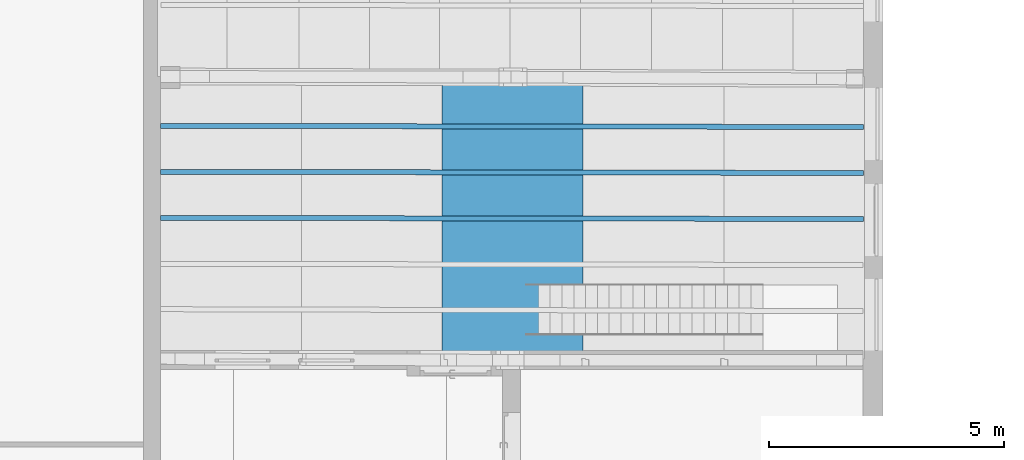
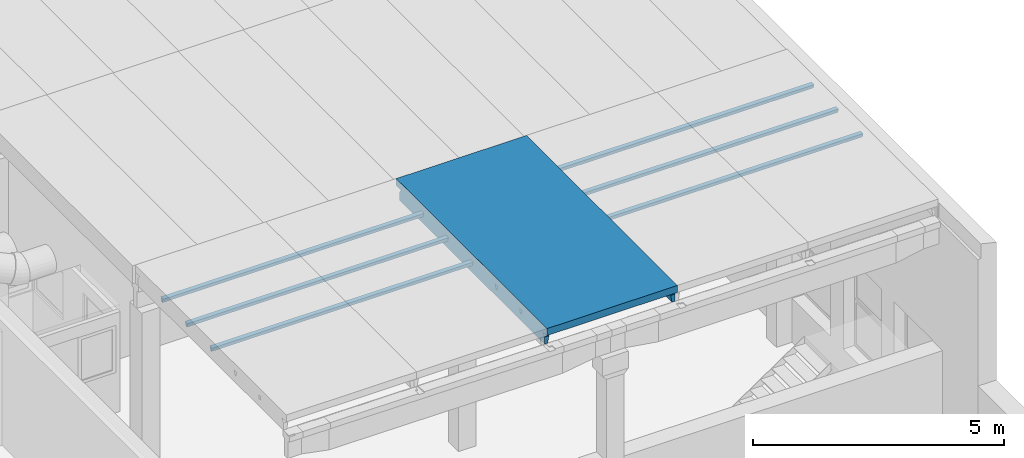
# One storey, part 28 of 301: 4 beams.
"""IFC2X3 building model written with IfcOpenShell, lengths in millimetres."""

from ifc_helpers import new_model, entity, si_unit, converted_unit, derived_unit, money_unit, direction, frame, origin_with_axes, place, context, subcontext, project, spatial, faceted_brep, material, type_object, element, save


model = new_model("IFC2X3")

# Units and contexts
model_context = context("Model", 3, precision=0.01, world=origin_with_axes(), true_north=direction((0.0, 1.0)))
body_context = subcontext(model_context, "Body", "Model", "MODEL_VIEW")
ifc_project = project(units=[si_unit("LENGTHUNIT", "METRE", prefix="MILLI"), si_unit("AREAUNIT", "SQUARE_METRE"), si_unit("VOLUMEUNIT", "CUBIC_METRE"), converted_unit("PLANEANGLEUNIT", "DEGREE", entity("IfcPlaneAngleMeasure", 0.0174532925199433), si_unit("PLANEANGLEUNIT", "RADIAN"), dimensions=[0, 0, 0, 0, 0, 0, 0]), money_unit("EUR"), converted_unit("TIMEUNIT", "Year", entity("IfcTimeMeasure", 31557600.0), si_unit("TIMEUNIT", "SECOND"), dimensions=[0, 0, 1, 0, 0, 0, 0]), si_unit("MASSUNIT", "GRAM", prefix="KILO"), si_unit("THERMODYNAMICTEMPERATUREUNIT", "DEGREE_CELSIUS"), si_unit("LUMINOUSINTENSITYUNIT", "LUMEN"), si_unit("ENERGYUNIT", "JOULE", prefix="MEGA"), derived_unit("THERMALCONDUCTANCEUNIT", [(si_unit("POWERUNIT", "WATT"), 1), (si_unit("LENGTHUNIT", "METRE"), -1), (si_unit("THERMODYNAMICTEMPERATUREUNIT", "KELVIN"), -1)]), derived_unit("SPECIFICHEATCAPACITYUNIT", [(si_unit("ENERGYUNIT", "JOULE"), 1), (si_unit("MASSUNIT", "GRAM", prefix="KILO"), -1), (si_unit("THERMODYNAMICTEMPERATUREUNIT", "KELVIN"), -1)]), derived_unit("MASSDENSITYUNIT", [(si_unit("MASSUNIT", "GRAM", prefix="KILO"), 1), (si_unit("VOLUMEUNIT", "CUBIC_METRE"), -1)])], contexts=[model_context])

# Site, building, storey
site_placement = place(None, frame((0.0, 0.0, 8650.0), z_axis=(0.0, 0.0, 1.0), x_axis=(1.0, 0.0, 0.0)))
site = spatial("IfcSite", under=ifc_project, at=site_placement, Name="43301:001:0844", CompositionType="ELEMENT")
building_placement = place(site_placement, origin_with_axes())
building = spatial("IfcBuilding", under=site, at=building_placement, Name="Kuressaare Ametikooli tuulikute mehaanikute õppekorpus", CompositionType="ELEMENT")
storey_placement = place(building_placement, origin_with_axes())
storey = spatial("IfcBuildingStorey", under=building, at=storey_placement, Name="1.korrus", CompositionType="ELEMENT", Elevation=0.0)

# Beams
ifc_material = material(Name="GENEERILINE - KONSTRUKTRIOON")
beam_type_1 = type_object("IfcBeamType", Name="Precast Double Tee 4 3000 x 440", PredefinedType="NOTDEFINED")
beam_1_placement = place(storey_placement, frame((95758.75644683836, 44085.15228588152, 7100.0), z_axis=(0.0, 0.0, 1.0), x_axis=(-1.0, 0.0, 0.0)))
element("IfcBeam", 1, at=beam_1_placement, inside=storey, type_object=beam_type_1, material=ifc_material, context=body_context, shape_type="Brep", body=[
    faceted_brep([(1500.0, 185.975979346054, -180.532857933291), (1500.0, 154.3033205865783, -221.5483087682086), (1500.0, 128.7111838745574, -266.6089685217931), (1500.0, 128.7106587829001, -440.0001340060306), (1500.0, 5916.081715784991, -440.0001340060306), (1500.0, 5916.081193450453, -267.5188171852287), (1500.0, 5890.489142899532, -222.4581574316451), (1500.0, 5858.816590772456, -181.4427065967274), (1500.0, 5847.854016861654, -169.9098486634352), (1500.0, 6017.898995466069, -169.9098486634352), (1500.0, 6017.898995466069, 0.0), (1500.0, 0.0, 0.0), (1500.0, 0.0, -168.9999999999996), (1500.0, 196.9385901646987, -168.9999999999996), (1500.0, 1114.395131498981, -169.8331663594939), (1500.0, 1106.196273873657, -175.4075010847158), (1500.0, 1101.62165437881, -184.2033640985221), (1500.0, 1080.881668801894, -271.7806445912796), (1500.0, 1040.88161509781, -271.7806445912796), (1500.0, 1020.140667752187, -184.2031688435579), (1500.0, 1015.566027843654, -175.4074260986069), (1500.0, 1007.367236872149, -169.8331663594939), (1500.0, 2085.613522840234, -175.4075010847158), (1500.0, 2081.03890334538, -184.2033640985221), (1500.0, 2060.29891776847, -271.7806445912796), (1500.0, 2020.298864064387, -271.7806445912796), (1500.0, 1999.557916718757, -184.2031688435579), (1500.0, 1994.983276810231, -175.4074260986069), (1500.0, 1986.784485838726, -169.8331663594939), (1500.0, 2093.812380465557, -169.8331663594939), (1500.0, 3061.827106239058, -184.2033640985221), (1500.0, 3041.087120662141, -271.7806445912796), (1500.0, 3001.087066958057, -271.7806445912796), (1500.0, 2980.346119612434, -184.2031688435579), (1500.0, 2975.771479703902, -175.4074260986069), (1500.0, 2967.572688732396, -169.8331663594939), (1500.0, 3074.600583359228, -169.8331663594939), (1500.0, 3066.401725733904, -175.4075010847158), (1500.0, 4020.839299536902, -271.7806445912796), (1500.0, 3980.839245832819, -271.7806445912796), (1500.0, 3960.098298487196, -184.2031688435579), (1500.0, 3955.523658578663, -175.4074260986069), (1500.0, 3947.324867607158, -169.8331663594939), (1500.0, 4054.352762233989, -169.8331663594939), (1500.0, 4046.153904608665, -175.4075010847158), (1500.0, 4041.579285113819, -184.2033640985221), (1500.0, 4952.438495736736, -271.7806445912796), (1500.0, 4931.697502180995, -184.2031688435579), (1500.0, 4927.122852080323, -175.4074260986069), (1500.0, 4918.924042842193, -169.8331663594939), (1500.0, 5025.952175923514, -169.8331663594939), (1500.0, 5017.753300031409, -175.4075010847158), (1500.0, 5013.17867034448, -184.2033640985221), (1500.0, 4992.438638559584, -271.7806445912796), (1365.910046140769, 186.4305255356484, -180.532857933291), (1371.752641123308, 183.6774127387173, -184.0724353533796), (1384.30381979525, 171.2231610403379, -200.1453415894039), (1390.327470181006, 156.1577432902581, -219.628309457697), (1390.629556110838, 154.6740710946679, -221.5483087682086), (1397.719241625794, 129.0579013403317, -266.6089685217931), (1424.999996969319, 128.9648983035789, -440.0001340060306), (1424.999996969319, 5916.245306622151, -440.0001340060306), (1397.862394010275, 5916.303977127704, -267.5188171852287), (1390.772708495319, 5890.727390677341, -222.4581574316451), (1384.303819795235, 5873.511315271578, -200.1453415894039), (1371.752641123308, 5861.127028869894, -184.0724353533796), (1367.411885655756, 5859.105793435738, -181.4427065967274), (1390.327470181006, 5888.543124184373, -219.628309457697), (1354.310838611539, 5851.589925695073, -173.505793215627), (1334.723493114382, 5848.214519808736, -169.9098486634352), (1334.723493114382, 6017.898995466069, -169.9098486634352), (1334.253143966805, 6017.898995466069, -169.8234995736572), (1127.640522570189, 6017.898995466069, -169.9098486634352), (-1500.0, 6017.898995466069, -169.9098486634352), (-1500.0, 6017.898995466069, 0.0), (-1500.0, 0.0, 0.0), (-1500.0, 0.0, -168.9999999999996), (-1500.0, 207.1081705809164, -168.9999999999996), (-1370.461247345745, 195.7064415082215, -180.532857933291), (-1370.286968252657, 195.8910073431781, -180.338069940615), (-1354.45241394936, 203.3474868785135, -172.4372542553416), (-1336.819669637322, 204.7111127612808, -170.9398142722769), (1334.253143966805, 196.7176675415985, -169.8234995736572), (1354.310838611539, 193.1494537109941, -173.505793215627), (-1500.0, 196.1455597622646, -180.532857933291), (1334.253120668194, 1114.666734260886, -169.8331663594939), (1354.310838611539, 1109.232083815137, -173.505793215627), (1357.449888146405, 1106.429865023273, -175.4075010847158), (1371.752641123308, 1101.89990260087, -184.0724353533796), (1371.854882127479, 1101.831640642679, -184.2033640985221), (1384.30381979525, 1098.035873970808, -200.1453415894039), (1390.327470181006, 1093.41206148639, -219.628309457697), (1398.532934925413, 1081.047938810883, -271.7806445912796), (1398.532934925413, 1041.047885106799, -271.7806445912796), (1371.854729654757, 1020.350654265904, -184.2031688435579), (1390.327470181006, 1028.710109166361, -219.628309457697), (1384.30381979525, 1024.105834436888, -200.1453415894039), (1371.752641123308, 1020.282827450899, -184.0724353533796), (1357.44976437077, 1015.799619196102, -175.4074260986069), (1354.310838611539, 1013.00778327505, -173.505793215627), (1334.253143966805, 1007.63883959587, -169.8331663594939), (-1500.0, 1119.311111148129, -169.8331663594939), (-1500.0, 1012.283216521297, -169.8331663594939), (1371.752641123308, 2081.31715156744, -184.0724353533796), (1371.854882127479, 2081.248889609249, -184.2033640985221), (1357.449888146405, 2085.84711398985, -175.4075010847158), (1390.327470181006, 2072.829310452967, -219.628309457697), (1398.532934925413, 2060.465187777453, -271.7806445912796), (1384.30381979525, 2077.453122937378, -200.1453415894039), (1398.532934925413, 2020.465134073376, -271.7806445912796), (1390.327470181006, 2008.127358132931, -219.628309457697), (1384.30381979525, 2003.523083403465, -200.1453415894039), (1371.854729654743, 1999.767903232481, -184.2031688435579), (1357.44976437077, 1995.216868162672, -175.4074260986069), (1371.752641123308, 1999.700076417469, -184.0724353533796), (1334.253124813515, 1987.056088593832, -169.8331663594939), (1354.310838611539, 1992.425032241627, -173.505793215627), (1334.253120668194, 2094.083983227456, -169.8331663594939), (-1500.0, 1991.700465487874, -169.8331663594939), (-1500.0, 2098.728360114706, -169.8331663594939), (1354.310838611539, 2088.649332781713, -173.505793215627), (1398.532934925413, 3041.253390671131, -271.7806445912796), (1371.854882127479, 3062.037092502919, -184.2033640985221), (1384.30381979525, 3058.241325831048, -200.1453415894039), (1390.327470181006, 3053.617513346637, -219.628309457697), (1398.532934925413, 3001.253336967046, -271.7806445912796), (1390.327470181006, 2988.915561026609, -219.628309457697), (1384.30381979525, 2984.311286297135, -200.1453415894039), (1371.854729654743, 2980.556106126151, -184.2031688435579), (1371.752641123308, 2980.488279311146, -184.0724353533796), (1357.449764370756, 2976.005071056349, -175.4074260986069), (1354.310838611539, 2973.213235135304, -173.505793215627), (1334.253125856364, 2967.844291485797, -169.8331663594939), (-1500.0, 2972.488668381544, -169.8331663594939), (-1500.0, 3079.516563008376, -169.8331663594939), (1334.253120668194, 3074.872186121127, -169.8331663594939), (1357.449888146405, 3066.63531688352, -175.4075010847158), (1354.310838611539, 3069.437535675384, -173.505793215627), (1371.752641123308, 3062.105354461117, -184.0724353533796), (1398.532934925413, 4021.005569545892, -271.7806445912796), (1398.532934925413, 3981.005515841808, -271.7806445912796), (1390.327470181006, 3968.66773990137, -219.628309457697), (1384.30381979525, 3964.063465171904, -200.1453415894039), (1371.854729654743, 3960.308285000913, -184.2031688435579), (1371.752641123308, 3960.240458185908, -184.0724353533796), (1357.44976437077, 3955.757249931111, -175.4074260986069), (1354.310838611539, 3952.965414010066, -173.505793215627), (1334.253127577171, 3947.596470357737, -169.8331663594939), (-1500.0, 3952.240847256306, -169.8331663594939), (-1500.0, 4059.268741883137, -169.8331663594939), (1334.253120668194, 4054.624364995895, -169.8331663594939), (1354.310838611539, 4049.189714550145, -173.505793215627), (1357.449888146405, 4046.387495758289, -175.4075010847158), (1371.752641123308, 4041.857533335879, -184.0724353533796), (1371.854882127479, 4041.789271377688, -184.2033640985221), (1384.30381979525, 4037.993504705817, -200.1453415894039), (1390.327470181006, 4033.369692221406, -219.628309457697), (1390.327470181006, 4940.38032354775, -219.628309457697), (1384.30381979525, 4935.78226478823, -200.1453415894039), (1371.854729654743, 4932.039944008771, -184.2031688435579), (1398.532934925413, 4952.709645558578, -271.7806445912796), (1371.752641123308, 4931.972222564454, -184.0724353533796), (1357.44976437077, 4927.50378820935, -175.4074260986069), (1354.310838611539, 4924.715190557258, -173.505793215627), (1334.253130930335, 4919.366967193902, -169.8331663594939), (-1500.0, 4926.940924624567, -169.8331663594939), (-1500.0, 5033.969057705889, -169.8331663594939), (1334.253113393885, 5026.395100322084, -169.8331663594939), (1354.310838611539, 5020.939705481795, -173.505793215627), (1357.449888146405, 5018.134235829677, -175.4075010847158), (1371.752641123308, 5013.58947955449, -184.0724353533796), (1371.854882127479, 5013.521111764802, -184.2033640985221), (1384.303819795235, 5009.712469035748, -200.1453415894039), (1390.327470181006, 5005.082420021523, -219.628309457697), (1398.532934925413, 4992.709788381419, -271.7806445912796), (-1336.819669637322, 5031.905305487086, -170.9398142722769), (-1336.819669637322, 5855.020754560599, -170.9398142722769), (1127.640522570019, 5848.666211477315, -169.9098486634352), (-1500.0, 5854.397650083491, -169.9098486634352), (-1500.0, 5865.360223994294, -181.4427065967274), (-1500.0, 5897.032776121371, -222.4581574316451), (-1500.0, 5922.624826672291, -267.5188171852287), (-1500.0, 5922.625349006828, -440.0001340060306), (-1500.0, 138.8802391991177, -440.0001340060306), (-1500.0, 138.8807642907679, -266.6089685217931), (-1500.0, 164.4729010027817, -221.5483087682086), (-1500.0, 1020.482007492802, -175.4074260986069), (-1500.0, 1025.056647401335, -184.2031688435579), (-1500.0, 1045.797594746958, -271.7806445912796), (-1500.0, 1085.797648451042, -271.7806445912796), (-1500.0, 1106.537634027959, -184.2033640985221), (-1500.0, 1111.112253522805, -175.4075010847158), (-1500.0, 2004.473896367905, -184.2031688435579), (-1500.0, 2025.214843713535, -271.7806445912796), (-1500.0, 2065.214897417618, -271.7806445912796), (-1500.0, 2085.954882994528, -184.2033640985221), (-1500.0, 2090.529502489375, -175.4075010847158), (-1500.0, 1999.899256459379, -175.4074260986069), (-1500.0, 3006.003046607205, -271.7806445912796), (-1500.0, 3046.003100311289, -271.7806445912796), (-1500.0, 3066.743085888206, -184.2033640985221), (-1500.0, 3071.317705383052, -175.4075010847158), (-1500.0, 2980.687459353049, -175.4074260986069), (-1500.0, 2985.262099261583, -184.2031688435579), (-1500.0, 4025.75527918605, -271.7806445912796), (-1500.0, 4046.495264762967, -184.2033640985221), (-1500.0, 4051.069884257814, -175.4075010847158), (-1500.0, 3960.439638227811, -175.4074260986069), (-1500.0, 3965.014278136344, -184.2031688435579), (-1500.0, 3985.755225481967, -271.7806445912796), (-1500.0, 5021.195552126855, -184.2033640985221), (-1500.0, 5025.77018181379, -175.4075010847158), (-1500.0, 4935.139733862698, -175.4074260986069), (-1500.0, 4939.71438396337, -184.2031688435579), (-1500.0, 4960.455377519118, -271.7806445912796), (-1500.0, 5000.455520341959, -271.7806445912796), (-1370.286968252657, 1022.833865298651, -180.338069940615), (-1382.086528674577, 185.7122354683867, -193.5261847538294), (-1382.086528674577, 1027.071394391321, -193.5261847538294), (-1373.745117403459, 1024.849758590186, -184.2031688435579), (-1360.405134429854, 1020.253258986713, -175.4074260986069), (-1354.45241394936, 1015.874885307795, -172.4372542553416), (-1336.819669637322, 1013.643510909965, -170.9398142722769), (-1388.184278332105, 172.9045594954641, -210.1386333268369), (-1390.259892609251, 164.1008973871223, -221.5483087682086), (-1360.405284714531, 1110.883505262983, -175.4075010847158), (-1354.45241394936, 1115.242456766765, -172.4372542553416), (-1336.819669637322, 1117.416031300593, -170.9398142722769), (-1336.819669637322, 1993.060759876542, -170.9398142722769), (-1354.45241394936, 1995.292134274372, -172.4372542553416), (-1360.40513442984, 1999.67050795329, -175.4074260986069), (-1360.405284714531, 2090.300754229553, -175.4075010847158), (-1354.45241394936, 2094.659705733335, -172.4372542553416), (-1336.819669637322, 2096.833280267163, -170.9398142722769), (-1336.819669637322, 2973.848962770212, -170.9398142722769), (-1354.45241394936, 2976.080337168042, -172.4372542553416), (-1360.40513442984, 2980.45871084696, -175.4074260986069), (-1354.45241394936, 3075.447908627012, -172.4372542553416), (-1336.819669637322, 3077.62148316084, -170.9398142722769), (-1360.405284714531, 3071.08895712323, -175.4075010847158), (-1354.45241394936, 3955.832516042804, -172.4372542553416), (-1360.40513442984, 3960.210889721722, -175.4074260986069), (-1336.819669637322, 3953.601141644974, -170.9398142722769), (-1336.819669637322, 4057.373662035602, -170.9398142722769), (-1360.405284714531, 4050.841135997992, -175.4075010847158), (-1354.45241394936, 4055.200087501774, -172.4372542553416), (-1360.40513442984, 4934.766695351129, -175.4074260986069), (-1336.819669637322, 4928.132553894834, -170.9398142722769), (-1354.45241394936, 4930.38215900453, -172.4372542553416), (-1360.405284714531, 5025.397143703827, -175.4075010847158), (-1354.45241394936, 5029.749951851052, -172.4372542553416), (-1354.45241394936, 5856.482608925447, -172.4372542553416), (-1371.275299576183, 5865.079448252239, -181.4427065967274), (-1370.286968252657, 5864.027278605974, -180.338069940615), (-1388.184278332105, 5887.27561946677, -210.1386333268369), (-1390.425409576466, 5896.793770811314, -222.4581574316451), (-1382.086528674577, 5874.434015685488, -193.5261847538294), (-1398.62271099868, 5922.403701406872, -267.5188171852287), (-1430.000000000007, 5922.472664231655, -440.0001340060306), (-1430.000000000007, 138.6429489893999, -440.0001340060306), (-1398.457194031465, 138.5365483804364, -266.6089685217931), (-1388.184278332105, 1031.01570774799, -210.1386333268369), (-1399.398009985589, 1045.63274230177, -271.7806445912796), (-1399.398009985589, 1085.632796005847, -271.7806445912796), (-1388.184278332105, 1100.212435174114, -210.1386333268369), (-1382.086528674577, 1104.136590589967, -193.5261847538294), (-1373.745292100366, 1106.330745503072, -184.2033640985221), (-1370.286968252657, 1108.335370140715, -180.338069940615), (-1373.745117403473, 2004.267007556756, -184.2031688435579), (-1382.086528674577, 2006.488643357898, -193.5261847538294), (-1388.184278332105, 2010.432956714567, -210.1386333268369), (-1399.398009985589, 2025.049991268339, -271.7806445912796), (-1399.398009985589, 2065.050044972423, -271.7806445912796), (-1388.184278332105, 2079.629684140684, -210.1386333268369), (-1382.086528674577, 2083.553839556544, -193.5261847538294), (-1373.745292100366, 2085.747994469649, -184.2033640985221), (-1370.286968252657, 2087.752619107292, -180.338069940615), (-1370.286968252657, 2002.251114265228, -180.338069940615), (-1399.398009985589, 3005.838194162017, -271.7806445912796), (-1399.398009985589, 3045.838247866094, -271.7806445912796), (-1388.184278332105, 3060.417887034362, -210.1386333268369), (-1382.086528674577, 3064.342042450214, -193.5261847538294), (-1373.745292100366, 3066.53619736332, -184.2033640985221), (-1370.286968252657, 3068.540822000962, -180.338069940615), (-1370.286968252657, 2983.039317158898, -180.338069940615), (-1373.745117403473, 2985.055210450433, -184.2031688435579), (-1382.086528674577, 2987.276846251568, -193.5261847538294), (-1388.184278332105, 2991.221159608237, -210.1386333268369), (-1382.086528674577, 4044.094221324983, -193.5261847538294), (-1373.745292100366, 4046.288376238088, -184.2033640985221), (-1399.398009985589, 4025.590426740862, -271.7806445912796), (-1388.184278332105, 4040.170065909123, -210.1386333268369), (-1370.286968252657, 4048.293000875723, -180.338069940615), (-1370.286968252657, 3962.79149603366, -180.338069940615), (-1373.745117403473, 3964.807389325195, -184.2031688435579), (-1388.184278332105, 3970.973338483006, -210.1386333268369), (-1399.398009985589, 3985.590373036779, -271.7806445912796), (-1382.086528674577, 3967.029025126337, -193.5261847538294), (-1373.745292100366, 5020.858162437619, -184.2033640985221), (-1370.286968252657, 5022.859216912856, -180.338069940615), (-1373.745117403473, 4939.376993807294, -184.2031688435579), (-1370.286968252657, 4937.357521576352, -180.338069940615), (-1399.398009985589, 4960.186539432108, -271.7806445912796), (-1382.086528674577, 4941.607256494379, -193.5261847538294), (-1388.184278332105, 4945.557881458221, -210.1386333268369), (-1399.398009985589, 5000.186682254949, -271.7806445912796), (-1388.184278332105, 5014.754763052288, -210.1386333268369), (-1382.086528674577, 5018.672624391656, -193.5261847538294)], [[[0, 1, 2, 3, 4, 5, 6, 7, 8, 9, 10, 11, 12, 13], [14, 15, 16, 17, 18, 19, 20, 21], [22, 23, 24, 25, 26, 27, 28, 29], [30, 31, 32, 33, 34, 35, 36, 37], [38, 39, 40, 41, 42, 43, 44, 45], [46, 47, 48, 49, 50, 51, 52, 53]], [[1, 0, 54, 55, 56, 57, 58]], [[1, 58, 59, 2]], [[2, 59, 60, 3]], [[61, 4, 3, 60]], [[61, 62, 5, 4]], [[62, 63, 6, 5]], [[64, 65, 66, 7, 6, 63, 67]], [[8, 7, 66, 68, 69]], [[69, 70, 9, 8]], [[71, 72, 73, 74, 10, 9, 70]], [[75, 11, 10, 74]], [[75, 76, 12, 11]], [[13, 12, 76, 77]], [[78, 79, 80, 81, 82, 83, 54, 0, 13, 77, 84]], [[85, 86, 87, 15, 14]], [[87, 88, 89, 16, 15]], [[90, 91, 92, 17, 16, 89]], [[17, 92, 93, 18]], [[94, 19, 18, 93, 95, 96]], [[97, 98, 20, 19, 94]], [[99, 100, 21, 20, 98]], [[101, 85, 14, 21, 100, 102]], [[103, 104, 23, 22, 105]], [[106, 107, 24, 23, 104, 108]], [[107, 109, 25, 24]], [[26, 25, 109, 110, 111, 112]], [[113, 27, 26, 112, 114]], [[115, 28, 27, 113, 116]], [[117, 29, 28, 115, 118, 119]], [[120, 105, 22, 29, 117]], [[121, 31, 30, 122, 123, 124]], [[125, 32, 31, 121]], [[32, 125, 126, 127, 128, 33]], [[34, 33, 128, 129, 130]], [[35, 34, 130, 131, 132]], [[36, 35, 132, 133, 134, 135]], [[136, 37, 36, 135, 137]], [[122, 30, 37, 136, 138]], [[39, 38, 139, 140]], [[140, 141, 142, 143, 40, 39]], [[40, 143, 144, 145, 41]], [[41, 145, 146, 147, 42]], [[42, 147, 148, 149, 150, 43]], [[44, 43, 150, 151, 152]], [[45, 44, 152, 153, 154]], [[38, 45, 154, 155, 156, 139]], [[157, 158, 159, 47, 46, 160]], [[159, 161, 162, 48, 47]], [[162, 163, 164, 49, 48]], [[164, 165, 166, 167, 50, 49]], [[50, 167, 168, 169, 51]], [[51, 169, 170, 171, 52]], [[52, 171, 172, 173, 174, 53]], [[53, 174, 160, 46]], [[97, 55, 54, 83, 99, 98]], [[94, 96, 56, 55, 97]], [[56, 96, 95, 57]], [[160, 174, 173, 67, 63, 62, 61, 60, 59, 58, 57, 95, 93, 92, 91, 110, 109, 107, 106, 126, 125, 121, 124, 141, 140, 139, 156, 157]], [[172, 171, 170, 65, 64]], [[170, 169, 168, 68, 66, 65]], [[67, 173, 172, 64]], [[68, 168, 167, 71, 70, 69]], [[71, 167, 175, 176, 177, 72]], [[178, 73, 72, 177]], [[77, 76, 75, 74, 73, 178, 179, 180, 181, 182, 183, 184, 185, 84], [186, 187, 188, 189, 190, 191, 101, 102], [192, 193, 194, 195, 196, 119, 118, 197], [198, 199, 200, 201, 134, 133, 202, 203], [204, 205, 206, 149, 148, 207, 208, 209], [210, 211, 166, 165, 212, 213, 214, 215]], [[216, 79, 78, 217, 218, 219]], [[220, 221, 80, 79, 216]], [[80, 221, 222, 81]], [[81, 222, 100, 82]], [[82, 100, 99, 83]], [[223, 217, 78, 84, 185, 224]], [[115, 116, 86, 85]], [[88, 87, 86, 116, 113, 114]], [[90, 89, 88, 114, 112, 111]], [[111, 110, 91, 90]], [[191, 225, 226, 227, 85, 101]], [[102, 100, 222, 221, 220, 186]], [[104, 103, 129, 128, 127, 108]], [[105, 120, 131, 130, 129, 103]], [[126, 106, 108, 127]], [[115, 228, 229, 230, 197, 118]], [[231, 232, 233, 117, 119, 196]], [[131, 120, 117, 132]], [[138, 144, 143, 142, 123, 122]], [[124, 123, 142, 141]], [[234, 235, 236, 202, 133, 132]], [[237, 238, 135, 134, 201, 239]], [[137, 135, 147, 146]], [[137, 146, 145, 144, 138, 136]], [[240, 241, 207, 148, 147, 242]], [[243, 150, 149, 206, 244, 245]], [[150, 164, 163, 151]], [[163, 162, 161, 153, 152, 151]], [[161, 159, 158, 155, 154, 153]], [[155, 158, 157, 156]], [[246, 212, 165, 164, 247, 248]], [[167, 166, 211, 249, 250, 175]], [[176, 175, 250, 251]], [[252, 179, 178, 177, 176, 251, 253]], [[254, 255, 180, 179, 252, 256]], [[181, 180, 255, 257]], [[182, 181, 257, 258]], [[182, 258, 259, 183]], [[260, 184, 183, 259]], [[224, 185, 184, 260]], [[187, 186, 220, 216, 219]], [[187, 219, 218, 261, 262, 188]], [[263, 189, 188, 262]], [[189, 263, 264, 265, 266, 190]], [[191, 190, 266, 267, 225]], [[268, 269, 270, 271, 193, 192]], [[194, 193, 271, 272]], [[272, 273, 274, 275, 195, 194]], [[195, 275, 276, 231, 196]], [[197, 230, 277, 268, 192]], [[198, 278, 279, 199]], [[280, 281, 282, 200, 199, 279]], [[282, 283, 239, 201, 200]], [[236, 284, 285, 203, 202]], [[286, 287, 278, 198, 203, 285]], [[288, 289, 205, 204, 290, 291]], [[292, 244, 206, 205, 289]], [[293, 294, 208, 207, 241]], [[295, 296, 209, 208, 294, 297]], [[296, 290, 204, 209]], [[249, 211, 210, 298, 299]], [[300, 213, 212, 246, 301]], [[302, 214, 213, 300, 303, 304]], [[305, 215, 214, 302]], [[298, 210, 215, 305, 306, 307]], [[223, 261, 218, 217]], [[254, 306, 305, 302, 304, 291, 290, 296, 295, 280, 279, 278, 287, 273, 272, 271, 270, 264, 263, 262, 261, 223, 224, 260, 259, 258, 257, 255]], [[228, 115, 85, 227]], [[226, 225, 267, 277, 230, 229]], [[229, 228, 227, 226]], [[231, 276, 284, 236, 235, 232]], [[234, 233, 232, 235]], [[132, 117, 233, 234]], [[238, 237, 240, 242]], [[135, 238, 242, 147]], [[283, 293, 241, 240, 237, 239]], [[243, 247, 164, 150]], [[301, 246, 248, 245, 244, 292]], [[245, 248, 247, 243]], [[250, 249, 299, 253, 251]], [[299, 298, 307, 256, 252, 253]], [[256, 307, 306, 254]], [[270, 269, 265, 264]], [[267, 266, 265, 269, 268, 277]], [[286, 274, 273, 287]], [[275, 274, 286, 285, 284, 276]], [[281, 280, 295, 297]], [[281, 297, 294, 293, 283, 282]], [[303, 300, 301, 292, 289, 288]], [[291, 304, 303, 288]]]),
])
beam_type_2 = type_object("IfcBeamType", Name="Precast Single Tee 2 107 x 102", PredefinedType="NOTDEFINED")
beam_2_placement = place(storey_placement, frame((88260.36192311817, 41073.89497830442, 6930.166833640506), z_axis=(0.0, 0.0, 1.0), x_axis=(-0.001638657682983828, -0.9999986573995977, 0.0)))
element("IfcBeam", 2, at=beam_2_placement, inside=storey, type_object=beam_type_2, material=ifc_material, context=body_context, shape_type="Brep", body=[
    faceted_brep([(45.31502884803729, 0.0, -5.574334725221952), (45.31502884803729, 14968.77585727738, -5.574334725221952), (53.51387546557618, 14968.77585727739, 0.0), (53.51387546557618, 0.0, 0.0), (40.74041549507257, 0.0, -14.37019773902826), (40.74041549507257, 14968.77585727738, -14.37019773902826), (20.00045776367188, 14968.77585727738, -101.9474782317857), (-19.99954223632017, 14968.77585727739, -101.9474782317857), (-40.74046173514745, 14968.77585727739, -14.37000248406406), (-45.31509550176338, 14968.77585727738, -5.574259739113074), (-53.51387546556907, 14968.77585727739, 0.0), (-53.51387546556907, 0.0, 0.0), (-45.31509550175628, 0.0, -5.574259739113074), (-40.74046173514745, 0.0, -14.37000248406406), (-19.99954223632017, 0.0, -101.9474782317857), (20.00045776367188, 0.0, -101.9474782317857)], [[[0, 1, 2, 3]], [[4, 5, 1, 0]], [[2, 1, 5, 6, 7, 8, 9, 10]], [[3, 2, 10, 11]], [[4, 0, 3, 11, 12, 13, 14, 15]], [[15, 6, 5, 4]], [[14, 7, 6, 15]], [[13, 8, 7, 14]], [[12, 9, 8, 13]], [[11, 10, 9, 12]]]),
])
beam_3_placement = place(storey_placement, frame((88261.96909708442, 42054.68054758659, 6930.166833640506), z_axis=(0.0, 0.0, 1.0), x_axis=(-0.001638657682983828, -0.9999986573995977, 0.0)))
element("IfcBeam", 3, at=beam_3_placement, inside=storey, type_object=beam_type_2, material=ifc_material, context=body_context, shape_type="Brep", body=[
    faceted_brep([(45.31502884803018, 0.0, -5.574334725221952), (45.31502884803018, 14968.77585727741, -5.574334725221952), (53.51387546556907, 14968.77585727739, 0.0), (53.51387546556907, 0.0, 0.0), (40.74041549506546, 0.0, -14.37019773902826), (40.74041549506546, 14968.77585727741, -14.37019773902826), (20.00045776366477, 14968.77585727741, -101.9474782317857), (-19.99954223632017, 14968.77585727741, -101.9474782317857), (-40.74046173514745, 14968.77585727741, -14.37000248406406), (-45.31509550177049, 14968.77585727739, -5.574259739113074), (-53.51387546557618, 14968.77585727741, 0.0), (-53.51387546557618, 0.0, 0.0), (-45.31509550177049, 0.0, -5.574259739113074), (-40.74046173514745, 0.0, -14.37000248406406), (-19.99954223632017, 0.0, -101.9474782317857), (20.00045776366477, 0.0, -101.9474782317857)], [[[0, 1, 2, 3]], [[4, 5, 1, 0]], [[2, 1, 5, 6, 7, 8, 9, 10]], [[3, 2, 10, 11]], [[4, 0, 3, 11, 12, 13, 14, 15]], [[15, 6, 5, 4]], [[14, 7, 6, 15]], [[13, 8, 7, 14]], [[12, 9, 8, 13]], [[11, 10, 9, 12]]]),
])
beam_4_placement = place(storey_placement, frame((88263.5740245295, 43034.09516662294, 6930.166833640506), z_axis=(0.0, 0.0, 1.0), x_axis=(-0.001638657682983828, -0.9999986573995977, 0.0)))
element("IfcBeam", 4, at=beam_4_placement, inside=storey, type_object=beam_type_2, material=ifc_material, context=body_context, shape_type="Brep", body=[
    faceted_brep([(45.31502884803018, 0.0, -5.574334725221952), (45.31502884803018, 14968.77585727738, -5.574334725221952), (53.51387546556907, 14968.77585727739, 0.0), (53.51387546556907, 0.0, 0.0), (40.74041549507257, 0.0, -14.37019773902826), (40.74041549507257, 14968.77585727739, -14.37019773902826), (20.00045776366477, 14968.77585727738, -101.9474782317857), (-19.99954223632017, 14968.77585727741, -101.9474782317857), (-40.74046173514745, 14968.77585727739, -14.37000248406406), (-45.31509550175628, 14968.77585727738, -5.574259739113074), (-53.51387546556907, 14968.77585727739, 0.0), (-53.51387546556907, 0.0, 0.0), (-45.31509550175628, 0.0, -5.574259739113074), (-40.74046173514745, 0.0, -14.37000248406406), (-19.99954223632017, 0.0, -101.9474782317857), (20.00045776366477, 0.0, -101.9474782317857)], [[[0, 1, 2, 3]], [[4, 5, 1, 0]], [[2, 1, 5, 6, 7, 8, 9, 10]], [[3, 2, 10, 11]], [[4, 0, 3, 11, 12, 13, 14, 15]], [[15, 6, 5, 4]], [[14, 7, 6, 15]], [[13, 8, 7, 14]], [[12, 9, 8, 13]], [[11, 10, 9, 12]]]),
])

save(model, "model.ifc")
